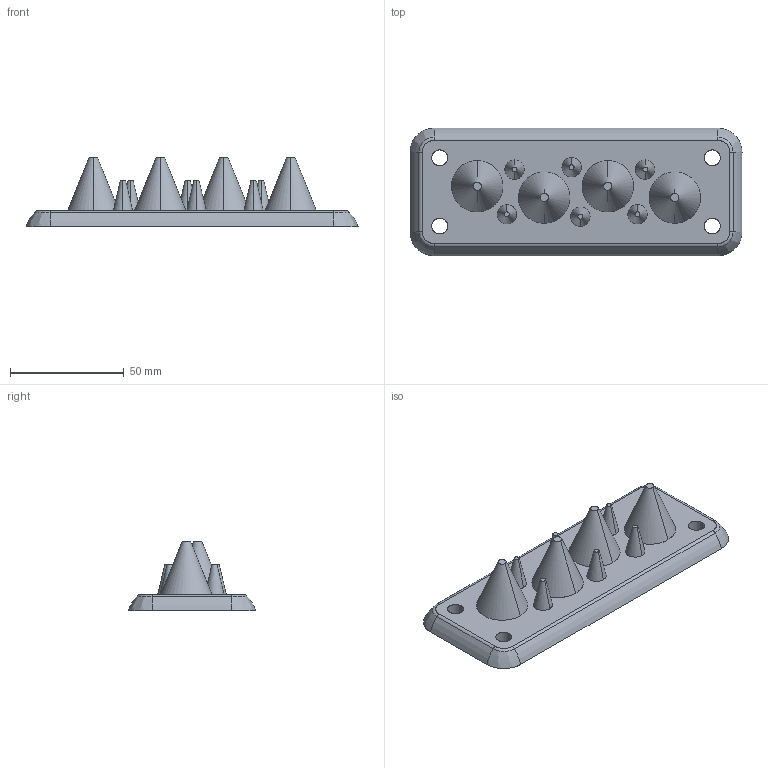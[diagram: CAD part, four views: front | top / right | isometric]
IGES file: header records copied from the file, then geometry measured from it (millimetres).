
Start section: SolidWorks IGES file using analytic representation for surfaces
Global section: file name: C:\Solidworks\omat tuotteet\Space charge models\Multigate\ip54 LMC\IGES\105954.IGS; native system: SolidWorks 2016; preprocessor: SolidWorks 2016; author: joni.lehtonen; date: 160215.091214; units: millimetre
Bounding box: 146.2 x 56.2 x 30.5 mm (x, y, z)
Surface area: 21669.9 mm2 (no closed solid volume)
Topology: 0 solids, 0 shells, 56 faces, 1144 edges, 1144 vertices
Faces by surface type: revolution 36, bspline 20
